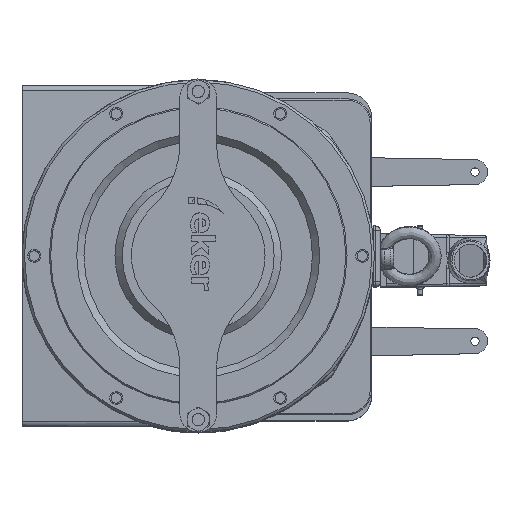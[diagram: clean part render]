
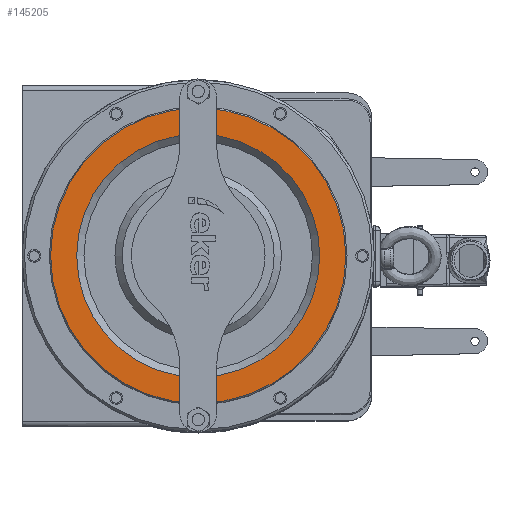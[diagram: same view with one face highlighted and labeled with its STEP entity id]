
A CAD part, top view. The second image highlights one B-rep face of the part: STEP entity #145205.
In plain terms, the highlighted planar face has unit normal (0, 0, 1).
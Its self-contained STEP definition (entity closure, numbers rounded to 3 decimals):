
#1360 = DIRECTION ( 'NONE',  ( 0., 0., 1. ) ) ;
#11073 = CARTESIAN_POINT ( 'NONE',  ( -18.097, -124.669, 1060.946 ) ) ;
#11695 = CIRCLE ( 'NONE', #50552, 100. ) ;
#13310 = EDGE_LOOP ( 'NONE', ( #88819, #39868 ) ) ;
#13578 = AXIS2_PLACEMENT_3D ( 'NONE', #74432, #61467, #84367 ) ;
#20319 = DIRECTION ( 'NONE',  ( 0., -1., 0. ) ) ;
#20973 = DIRECTION ( 'NONE',  ( 0., 0., -1. ) ) ;
#24832 = VERTEX_POINT ( 'NONE', #11073 ) ;
#30179 = PLANE ( 'NONE',  #115088 ) ;
#37765 = EDGE_CURVE ( 'NONE', #24832, #94705, #96024, .T. ) ;
#39868 = ORIENTED_EDGE ( 'NONE', *, *, #127201, .F. ) ;
#41859 = ORIENTED_EDGE ( 'NONE', *, *, #114095, .F. ) ;
#50552 = AXIS2_PLACEMENT_3D ( 'NONE', #62913, #1360, #94235 ) ;
#52135 = CARTESIAN_POINT ( 'NONE',  ( -18.097, -3.169, 1060.946 ) ) ;
#53815 = FACE_BOUND ( 'NONE', #13310, .T. ) ;
#54833 = CARTESIAN_POINT ( 'NONE',  ( -18.097, 96.831, 1060.946 ) ) ;
#55612 = CARTESIAN_POINT ( 'NONE',  ( -18.097, 118.331, 1060.946 ) ) ;
#61467 = DIRECTION ( 'NONE',  ( 0., 0., 1. ) ) ;
#62913 = CARTESIAN_POINT ( 'NONE',  ( -18.097, -3.169, 1060.946 ) ) ;
#65268 = DIRECTION ( 'NONE',  ( 0., 0., 1. ) ) ;
#71262 = ORIENTED_EDGE ( 'NONE', *, *, #37765, .F. ) ;
#74432 = CARTESIAN_POINT ( 'NONE',  ( -18.097, -3.169, 1060.946 ) ) ;
#76707 = CARTESIAN_POINT ( 'NONE',  ( -18.097, -3.169, 1060.946 ) ) ;
#84367 = DIRECTION ( 'NONE',  ( 0., -1., 0. ) ) ;
#88819 = ORIENTED_EDGE ( 'NONE', *, *, #113878, .F. ) ;
#91996 = VERTEX_POINT ( 'NONE', #128271 ) ;
#94235 = DIRECTION ( 'NONE',  ( 0., -1., 0. ) ) ;
#94705 = VERTEX_POINT ( 'NONE', #55612 ) ;
#96024 = CIRCLE ( 'NONE', #130013, 121.5 ) ;
#100302 = FACE_OUTER_BOUND ( 'NONE', #112624, .T. ) ;
#101072 = CIRCLE ( 'NONE', #13578, 100. ) ;
#102455 = DIRECTION ( 'NONE',  ( 0., 1., 0. ) ) ;
#112624 = EDGE_LOOP ( 'NONE', ( #41859, #71262 ) ) ;
#113176 = CARTESIAN_POINT ( 'NONE',  ( -18.097, -3.169, 1060.946 ) ) ;
#113878 = EDGE_CURVE ( 'NONE', #91996, #120732, #11695, .T. ) ;
#113892 = CIRCLE ( 'NONE', #147854, 121.5 ) ;
#114095 = EDGE_CURVE ( 'NONE', #94705, #24832, #113892, .T. ) ;
#115088 = AXIS2_PLACEMENT_3D ( 'NONE', #76707, #65268, #20319 ) ;
#120732 = VERTEX_POINT ( 'NONE', #54833 ) ;
#121436 = DIRECTION ( 'NONE',  ( 0., 0., -1. ) ) ;
#127201 = EDGE_CURVE ( 'NONE', #120732, #91996, #101072, .T. ) ;
#128271 = CARTESIAN_POINT ( 'NONE',  ( -18.097, -103.169, 1060.946 ) ) ;
#130013 = AXIS2_PLACEMENT_3D ( 'NONE', #52135, #121436, #132090 ) ;
#132090 = DIRECTION ( 'NONE',  ( 0., 1., 0. ) ) ;
#145205 = ADVANCED_FACE ( 'NONE', ( #53815, #100302 ), #30179, .T. ) ;
#147854 = AXIS2_PLACEMENT_3D ( 'NONE', #113176, #20973, #102455 ) ;
